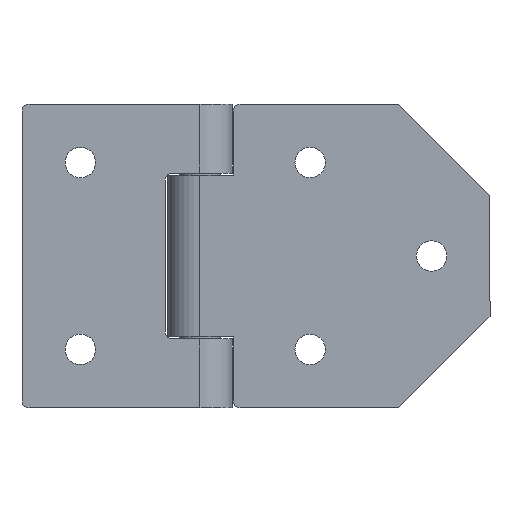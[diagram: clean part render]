
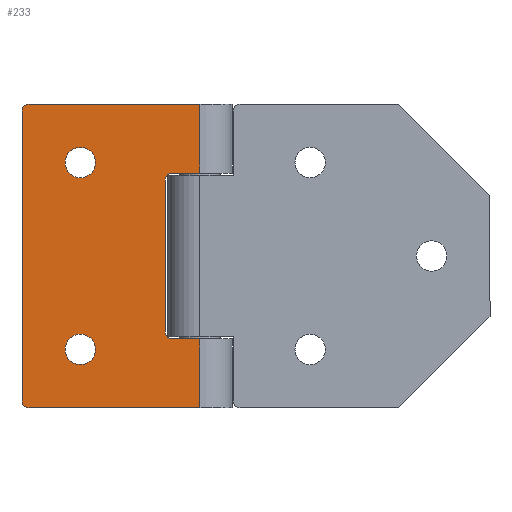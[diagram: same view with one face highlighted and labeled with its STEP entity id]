
A CAD part, front view. The second image highlights one B-rep face of the part: STEP entity #233.
In plain terms, the highlighted planar face has unit normal (0, -1, 0).
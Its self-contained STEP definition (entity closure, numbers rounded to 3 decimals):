
#29 = CARTESIAN_POINT ( 'NONE',  ( -36.6, -6.9, 32.5 ) ) ;
#36 = VERTEX_POINT ( 'NONE', #2879 ) ;
#39 = EDGE_CURVE ( 'NONE', #36, #2187, #3414, .T. ) ;
#43 = VERTEX_POINT ( 'NONE', #487 ) ;
#49 = ORIENTED_EDGE ( 'NONE', *, *, #2984, .T. ) ;
#142 = CARTESIAN_POINT ( 'NONE',  ( -25.6, -6.9, 20. ) ) ;
#165 = VERTEX_POINT ( 'NONE', #2270 ) ;
#210 = EDGE_CURVE ( 'NONE', #3085, #2812, #683, .T. ) ;
#220 = CIRCLE ( 'NONE', #263, 3.25 ) ;
#222 = EDGE_CURVE ( 'NONE', #2830, #3201, #1194, .T. ) ;
#233 = ADVANCED_FACE ( 'NONE', ( #1738, #2557, #1481 ), #2519, .F. ) ;
#248 = LINE ( 'NONE', #2396, #483 ) ;
#263 = AXIS2_PLACEMENT_3D ( 'NONE', #2127, #1547, #2613 ) ;
#265 = AXIS2_PLACEMENT_3D ( 'NONE', #142, #1497, #2006 ) ;
#290 = CARTESIAN_POINT ( 'NONE',  ( -25.6, -6.9, 20. ) ) ;
#299 = AXIS2_PLACEMENT_3D ( 'NONE', #616, #343, #2754 ) ;
#343 = DIRECTION ( 'NONE',  ( 0., 1., 0. ) ) ;
#353 = CARTESIAN_POINT ( 'NONE',  ( 0., -6.9, 32.5 ) ) ;
#356 = DIRECTION ( 'NONE',  ( -1., 0., 0. ) ) ;
#382 = ORIENTED_EDGE ( 'NONE', *, *, #2907, .T. ) ;
#404 = DIRECTION ( 'NONE',  ( -1., 0., 0. ) ) ;
#423 = CIRCLE ( 'NONE', #478, 3.25 ) ;
#478 = AXIS2_PLACEMENT_3D ( 'NONE', #2720, #829, #2475 ) ;
#483 = VECTOR ( 'NONE', #2148, 1000. ) ;
#487 = CARTESIAN_POINT ( 'NONE',  ( -7.4, -6.9, -16.25 ) ) ;
#492 = LINE ( 'NONE', #2080, #1220 ) ;
#506 = CARTESIAN_POINT ( 'NONE',  ( 0., -6.9, 32.5 ) ) ;
#541 = CARTESIAN_POINT ( 'NONE',  ( -25.6, -6.9, -23.25 ) ) ;
#561 = VECTOR ( 'NONE', #1004, 1000. ) ;
#616 = CARTESIAN_POINT ( 'NONE',  ( -5.9, -6.9, 16.25 ) ) ;
#620 = CARTESIAN_POINT ( 'NONE',  ( -5.9, -6.9, -16.25 ) ) ;
#632 = DIRECTION ( 'NONE',  ( 1., 0., 0. ) ) ;
#675 = CIRCLE ( 'NONE', #1566, 1.5 ) ;
#683 = CIRCLE ( 'NONE', #265, 3.25 ) ;
#694 = ORIENTED_EDGE ( 'NONE', *, *, #1588, .T. ) ;
#698 = EDGE_CURVE ( 'NONE', #1139, #2087, #1695, .T. ) ;
#715 = DIRECTION ( 'NONE',  ( 1., 0., 0. ) ) ;
#723 = CIRCLE ( 'NONE', #2624, 3.25 ) ;
#731 = LINE ( 'NONE', #1850, #3422 ) ;
#740 = EDGE_LOOP ( 'NONE', ( #2914, #1851 ) ) ;
#758 = CIRCLE ( 'NONE', #1598, 1.5 ) ;
#779 = CARTESIAN_POINT ( 'NONE',  ( -25.6, -6.9, -16.75 ) ) ;
#829 = DIRECTION ( 'NONE',  ( 0., 1., 0. ) ) ;
#891 = CARTESIAN_POINT ( 'NONE',  ( -25.6, -6.9, 23.25 ) ) ;
#948 = ORIENTED_EDGE ( 'NONE', *, *, #983, .T. ) ;
#961 = CARTESIAN_POINT ( 'NONE',  ( 0., -6.9, 17.75 ) ) ;
#983 = EDGE_CURVE ( 'NONE', #3235, #2880, #220, .T. ) ;
#995 = DIRECTION ( 'NONE',  ( 0., 0., -1. ) ) ;
#1004 = DIRECTION ( 'NONE',  ( 0., 0., -1. ) ) ;
#1016 = CARTESIAN_POINT ( 'NONE',  ( -25.6, -6.9, 16.75 ) ) ;
#1083 = CARTESIAN_POINT ( 'NONE',  ( -5.9, -6.9, 17.75 ) ) ;
#1139 = VERTEX_POINT ( 'NONE', #2523 ) ;
#1169 = DIRECTION ( 'NONE',  ( -1., 0., 0. ) ) ;
#1194 = CIRCLE ( 'NONE', #1625, 1.5 ) ;
#1219 = ORIENTED_EDGE ( 'NONE', *, *, #2309, .T. ) ;
#1220 = VECTOR ( 'NONE', #3182, 1000. ) ;
#1311 = EDGE_CURVE ( 'NONE', #2880, #3235, #423, .T. ) ;
#1354 = ORIENTED_EDGE ( 'NONE', *, *, #2888, .T. ) ;
#1394 = VERTEX_POINT ( 'NONE', #2981 ) ;
#1408 = VERTEX_POINT ( 'NONE', #1083 ) ;
#1409 = DIRECTION ( 'NONE',  ( -1., 0., 0. ) ) ;
#1427 = CARTESIAN_POINT ( 'NONE',  ( 0., -6.9, 32.5 ) ) ;
#1481 = FACE_OUTER_BOUND ( 'NONE', #3474, .T. ) ;
#1486 = ORIENTED_EDGE ( 'NONE', *, *, #1499, .F. ) ;
#1497 = DIRECTION ( 'NONE',  ( 0., 1., 0. ) ) ;
#1499 = EDGE_CURVE ( 'NONE', #1139, #2075, #731, .T. ) ;
#1547 = DIRECTION ( 'NONE',  ( 0., 1., 0. ) ) ;
#1566 = AXIS2_PLACEMENT_3D ( 'NONE', #620, #2815, #404 ) ;
#1588 = EDGE_CURVE ( 'NONE', #1408, #2187, #2885, .T. ) ;
#1598 = AXIS2_PLACEMENT_3D ( 'NONE', #1984, #3243, #3025 ) ;
#1625 = AXIS2_PLACEMENT_3D ( 'NONE', #3090, #3300, #1988 ) ;
#1695 = LINE ( 'NONE', #2988, #2727 ) ;
#1738 = FACE_BOUND ( 'NONE', #740, .T. ) ;
#1743 = ORIENTED_EDGE ( 'NONE', *, *, #1784, .T. ) ;
#1783 = ORIENTED_EDGE ( 'NONE', *, *, #39, .F. ) ;
#1784 = EDGE_CURVE ( 'NONE', #3201, #2075, #1977, .T. ) ;
#1816 = CARTESIAN_POINT ( 'NONE',  ( 0., -6.9, -32.5 ) ) ;
#1850 = CARTESIAN_POINT ( 'NONE',  ( 0., -6.9, 32.5 ) ) ;
#1851 = ORIENTED_EDGE ( 'NONE', *, *, #1859, .T. ) ;
#1859 = EDGE_CURVE ( 'NONE', #2812, #3085, #723, .T. ) ;
#1867 = CARTESIAN_POINT ( 'NONE',  ( -5.9, -6.9, -17.75 ) ) ;
#1875 = EDGE_LOOP ( 'NONE', ( #948, #2156 ) ) ;
#1968 = DIRECTION ( 'NONE',  ( 1., 0., 0. ) ) ;
#1977 = LINE ( 'NONE', #3036, #2781 ) ;
#1984 = CARTESIAN_POINT ( 'NONE',  ( -36.6, -6.9, 31. ) ) ;
#1988 = DIRECTION ( 'NONE',  ( -1., 0., 0. ) ) ;
#2006 = DIRECTION ( 'NONE',  ( -1., 0., 0. ) ) ;
#2075 = VERTEX_POINT ( 'NONE', #1816 ) ;
#2080 = CARTESIAN_POINT ( 'NONE',  ( -38.1, -6.9, 32.5 ) ) ;
#2087 = VERTEX_POINT ( 'NONE', #1867 ) ;
#2127 = CARTESIAN_POINT ( 'NONE',  ( -25.6, -6.9, -20. ) ) ;
#2148 = DIRECTION ( 'NONE',  ( 0., 0., 1. ) ) ;
#2156 = ORIENTED_EDGE ( 'NONE', *, *, #1311, .T. ) ;
#2187 = VERTEX_POINT ( 'NONE', #961 ) ;
#2270 = CARTESIAN_POINT ( 'NONE',  ( -7.4, -6.9, 16.25 ) ) ;
#2309 = EDGE_CURVE ( 'NONE', #2087, #43, #675, .T. ) ;
#2396 = CARTESIAN_POINT ( 'NONE',  ( -7.4, -6.9, 32.5 ) ) ;
#2430 = CIRCLE ( 'NONE', #299, 1.5 ) ;
#2451 = AXIS2_PLACEMENT_3D ( 'NONE', #1427, #2763, #356 ) ;
#2475 = DIRECTION ( 'NONE',  ( -1., 0., 0. ) ) ;
#2519 = PLANE ( 'NONE',  #2451 ) ;
#2523 = CARTESIAN_POINT ( 'NONE',  ( 0., -6.9, -17.75 ) ) ;
#2539 = ORIENTED_EDGE ( 'NONE', *, *, #698, .T. ) ;
#2557 = FACE_BOUND ( 'NONE', #1875, .T. ) ;
#2564 = ORIENTED_EDGE ( 'NONE', *, *, #222, .T. ) ;
#2613 = DIRECTION ( 'NONE',  ( -1., 0., 0. ) ) ;
#2617 = CARTESIAN_POINT ( 'NONE',  ( 0., -6.9, 17.75 ) ) ;
#2624 = AXIS2_PLACEMENT_3D ( 'NONE', #290, #3283, #1409 ) ;
#2704 = LINE ( 'NONE', #353, #3120 ) ;
#2720 = CARTESIAN_POINT ( 'NONE',  ( -25.6, -6.9, -20. ) ) ;
#2727 = VECTOR ( 'NONE', #1169, 1000. ) ;
#2746 = EDGE_CURVE ( 'NONE', #1394, #2830, #492, .T. ) ;
#2754 = DIRECTION ( 'NONE',  ( -1., 0., 0. ) ) ;
#2763 = DIRECTION ( 'NONE',  ( 0., 1., 0. ) ) ;
#2781 = VECTOR ( 'NONE', #632, 1000. ) ;
#2812 = VERTEX_POINT ( 'NONE', #1016 ) ;
#2815 = DIRECTION ( 'NONE',  ( 0., 1., 0. ) ) ;
#2830 = VERTEX_POINT ( 'NONE', #2976 ) ;
#2879 = CARTESIAN_POINT ( 'NONE',  ( 0., -6.9, 32.5 ) ) ;
#2880 = VERTEX_POINT ( 'NONE', #541 ) ;
#2885 = LINE ( 'NONE', #2617, #3130 ) ;
#2888 = EDGE_CURVE ( 'NONE', #43, #165, #248, .T. ) ;
#2907 = EDGE_CURVE ( 'NONE', #165, #1408, #2430, .T. ) ;
#2914 = ORIENTED_EDGE ( 'NONE', *, *, #210, .T. ) ;
#2965 = EDGE_CURVE ( 'NONE', #3046, #36, #2704, .T. ) ;
#2975 = ORIENTED_EDGE ( 'NONE', *, *, #2965, .F. ) ;
#2976 = CARTESIAN_POINT ( 'NONE',  ( -38.1, -6.9, -31. ) ) ;
#2981 = CARTESIAN_POINT ( 'NONE',  ( -38.1, -6.9, 31. ) ) ;
#2984 = EDGE_CURVE ( 'NONE', #3046, #1394, #758, .T. ) ;
#2988 = CARTESIAN_POINT ( 'NONE',  ( 0., -6.9, -17.75 ) ) ;
#3025 = DIRECTION ( 'NONE',  ( -1., 0., 0. ) ) ;
#3034 = ORIENTED_EDGE ( 'NONE', *, *, #2746, .T. ) ;
#3036 = CARTESIAN_POINT ( 'NONE',  ( 0., -6.9, -32.5 ) ) ;
#3046 = VERTEX_POINT ( 'NONE', #29 ) ;
#3072 = CARTESIAN_POINT ( 'NONE',  ( -36.6, -6.9, -32.5 ) ) ;
#3085 = VERTEX_POINT ( 'NONE', #891 ) ;
#3090 = CARTESIAN_POINT ( 'NONE',  ( -36.6, -6.9, -31. ) ) ;
#3120 = VECTOR ( 'NONE', #1968, 1000. ) ;
#3130 = VECTOR ( 'NONE', #715, 1000. ) ;
#3182 = DIRECTION ( 'NONE',  ( 0., 0., -1. ) ) ;
#3201 = VERTEX_POINT ( 'NONE', #3072 ) ;
#3235 = VERTEX_POINT ( 'NONE', #779 ) ;
#3243 = DIRECTION ( 'NONE',  ( 0., -1., 0. ) ) ;
#3283 = DIRECTION ( 'NONE',  ( 0., 1., 0. ) ) ;
#3300 = DIRECTION ( 'NONE',  ( 0., -1., 0. ) ) ;
#3414 = LINE ( 'NONE', #506, #561 ) ;
#3422 = VECTOR ( 'NONE', #995, 1000. ) ;
#3474 = EDGE_LOOP ( 'NONE', ( #3034, #2564, #1743, #1486, #2539, #1219, #1354, #382, #694, #1783, #2975, #49 ) ) ;
